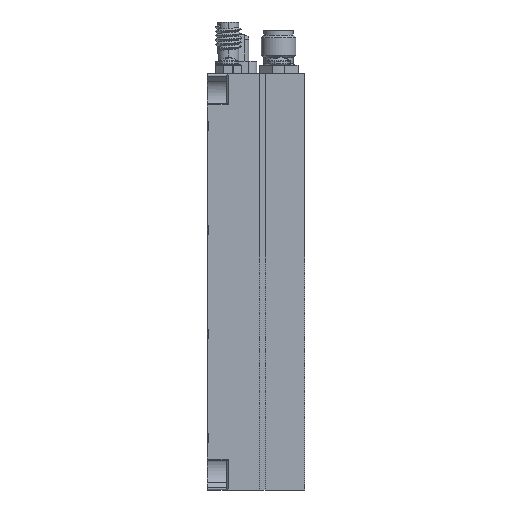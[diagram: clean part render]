
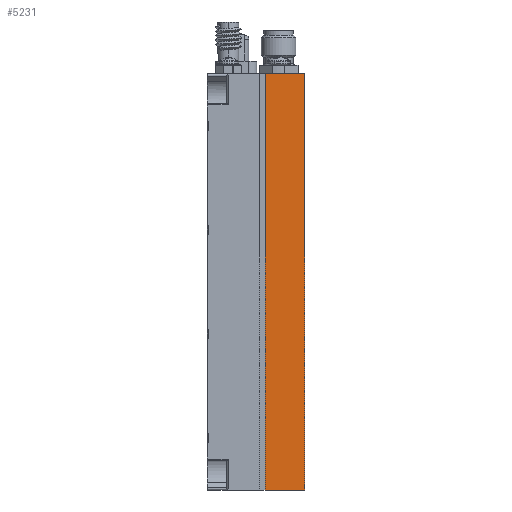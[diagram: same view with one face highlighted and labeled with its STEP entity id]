
A CAD part, left-side view. The second image highlights one B-rep face of the part: STEP entity #5231.
In plain terms, the highlighted planar face has unit normal (-1, 0, 0).
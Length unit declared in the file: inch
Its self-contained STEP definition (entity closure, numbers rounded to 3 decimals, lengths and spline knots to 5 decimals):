
#962 = VERTEX_POINT ( 'NONE', #11952 ) ;
#1251 = EDGE_CURVE ( 'NONE', #962, #8979, #8501, .T. ) ;
#1457 = EDGE_CURVE ( 'NONE', #7003, #7002, #8738, .T. ) ;
#1461 = EDGE_CURVE ( 'NONE', #8979, #7002, #8746, .T. ) ;
#1462 = EDGE_CURVE ( 'NONE', #962, #7003, #8748, .T. ) ;
#3108 = ORIENTED_EDGE ( 'NONE', *, *, #1461, .T. ) ;
#3109 = ORIENTED_EDGE ( 'NONE', *, *, #1457, .F. ) ;
#3110 = ORIENTED_EDGE ( 'NONE', *, *, #1462, .F. ) ;
#3111 = ORIENTED_EDGE ( 'NONE', *, *, #1251, .T. ) ;
#5231 = ADVANCED_FACE ( 'NONE', ( #15048 ), #18637, .F. ) ;
#7002 = VERTEX_POINT ( 'NONE', #23077 ) ;
#7003 = VERTEX_POINT ( 'NONE', #23078 ) ;
#7671 = EDGE_LOOP ( 'NONE', ( #3108, #3109, #3110, #3111 ) ) ;
#8501 = LINE ( 'NONE', #12869, #8504 ) ;
#8504 = VECTOR ( 'NONE', #12870, 39.37008 ) ;
#8738 = LINE ( 'NONE', #13660, #8741 ) ;
#8741 = VECTOR ( 'NONE', #13661, 39.37008 ) ;
#8746 = LINE ( 'NONE', #13668, #8749 ) ;
#8748 = LINE ( 'NONE', #13670, #8751 ) ;
#8749 = VECTOR ( 'NONE', #13669, 39.37008 ) ;
#8751 = VECTOR ( 'NONE', #13671, 39.37008 ) ;
#8979 = VERTEX_POINT ( 'NONE', #24000 ) ;
#11952 = CARTESIAN_POINT ( 'NONE',  ( -1.24135, -0.01929, -1.26272 ) ) ;
#12869 = CARTESIAN_POINT ( 'NONE',  ( -1.24135, -0.01929, -1.26272 ) ) ;
#12870 = DIRECTION ( 'NONE',  ( 0., -1., 0. ) ) ;
#13660 = CARTESIAN_POINT ( 'NONE',  ( -1.24135, -0.01929, 1.73728 ) ) ;
#13661 = DIRECTION ( 'NONE',  ( 0., -1., 0. ) ) ;
#13668 = CARTESIAN_POINT ( 'NONE',  ( -1.24135, -0.30429, -1.26272 ) ) ;
#13669 = DIRECTION ( 'NONE',  ( 0., 0., 1. ) ) ;
#13670 = CARTESIAN_POINT ( 'NONE',  ( -1.24135, -0.01929, -1.26272 ) ) ;
#13671 = DIRECTION ( 'NONE',  ( 0., 0., 1. ) ) ;
#15048 = FACE_OUTER_BOUND ( 'NONE', #7671, .T. ) ;
#16860 = AXIS2_PLACEMENT_3D ( 'NONE', #18636, #18688, #18689 ) ;
#18636 = CARTESIAN_POINT ( 'NONE',  ( -1.24135, -0.01929, -1.26272 ) ) ;
#18637 = PLANE ( 'NONE',  #16860 ) ;
#18688 = DIRECTION ( 'NONE',  ( 1., 0., 0. ) ) ;
#18689 = DIRECTION ( 'NONE',  ( 0., 0., -1. ) ) ;
#23077 = CARTESIAN_POINT ( 'NONE',  ( -1.24135, -0.30429, 1.73728 ) ) ;
#23078 = CARTESIAN_POINT ( 'NONE',  ( -1.24135, -0.01929, 1.73728 ) ) ;
#24000 = CARTESIAN_POINT ( 'NONE',  ( -1.24135, -0.30429, -1.26272 ) ) ;
